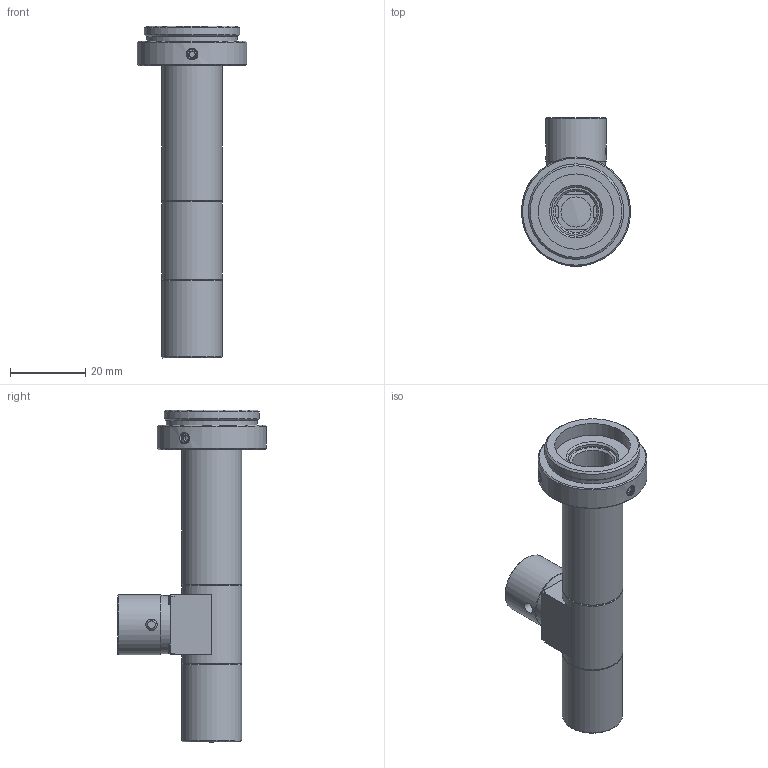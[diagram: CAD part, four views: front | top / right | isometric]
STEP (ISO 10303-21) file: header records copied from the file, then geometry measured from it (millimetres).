
FILE_DESCRIPTION(('STEP AP214'),'1');
FILE_NAME('RTK-3F-65.stp','2026-03-18T01:31:56',(' '),(' '),'Spatial InterOp 3D',' ',' ');
FILE_SCHEMA(('AUTOMOTIVE_DESIGN { 1 0 10303 214 1 1 1 1 }'));
Length unit declared in the file: metre
Products named in the file (2): RTK-3F-65; Component1
Assembly tree (1 placements, depth 2):
  RTK-3F-65
    Component1
Bounding box: 29 x 39.5 x 88.13 mm (x, y, z)
Volume: 13397.6 mm3; surface area: 12642.2 mm2
Topology: 1 solids, 13 shells, 347 faces, 828 edges, 539 vertices
Faces by surface type: plane 166, cone 89, cylinder 75, torus 8, sphere 6, bspline 3
Full cylindrical faces by diameter (mm): 1.7 x8, 1.8 x4, 2.5 x6, 3 x3, 6.5 x1, 8 x2, 9 x1, 10 x1, 11 x1, 12 x2, 12.7 x1, 13 x2, 13.4 x1, 13.5 x2, 13.7 x1, 14 x2, 14.2 x3, 14.7 x1, 15.5 x1, 16 x6, 20 x1, 24.12 x1, 25.32 x1, 29 x1
Entity records: 15907 total; most frequent: CARTESIAN_POINT 2415, DIRECTION 1578, ORIENTED_EDGE 1320, STYLED_ITEM 1007, PRESENTATION_STYLE_ASSIGNMENT 1007, COLOUR_RGB 1007, AXIS2_PLACEMENT_3D 661, EDGE_CURVE 660
